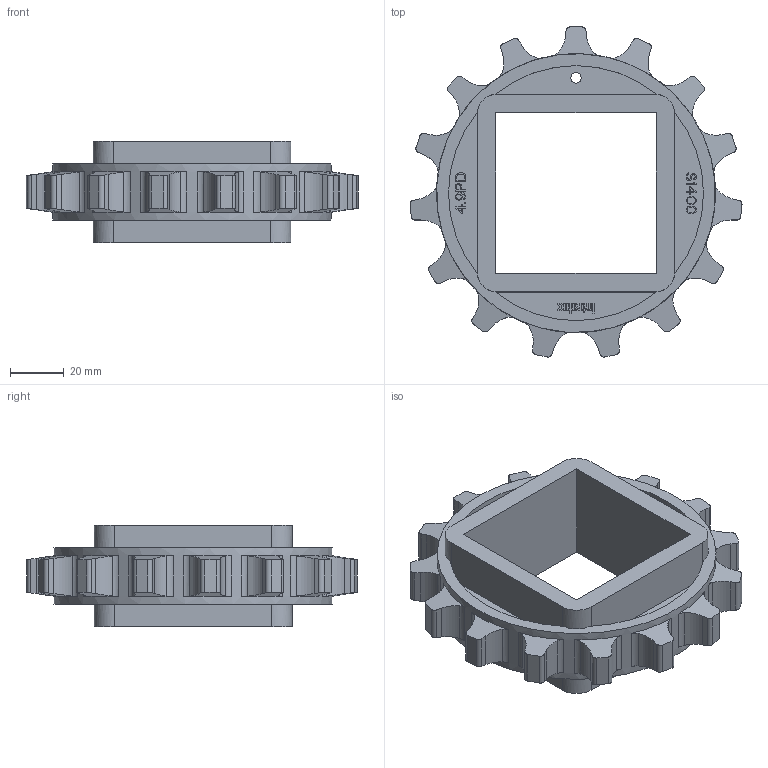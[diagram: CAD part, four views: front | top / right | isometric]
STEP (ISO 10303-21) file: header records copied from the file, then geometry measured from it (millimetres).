
FILE_DESCRIPTION((''),'2;1');
FILE_NAME('S1400_SPROCKET_49X25_60_SQ','2012-07-05T',('rklein'),('INTRALOX'),'PRO/ENGINEER BY PARAMETRIC TECHNOLOGY CORPORATION, 2009460','PRO/ENGINEER BY PARAMETRIC TECHNOLOGY CORPORATION, 2009460','');
FILE_SCHEMA(('CONFIG_CONTROL_DESIGN'));
Length unit declared in the file: inch
Products named in the file (1): S1400_SPROCKET_49X25_60_SQ
Bounding box: 124.04 x 123.38 x 38.1 mm (x, y, z)
Volume: 125955.5 mm3; surface area: 44100.8 mm2
Topology: 1 solids, 1 shells, 644 faces, 1791 edges, 1194 vertices
Faces by surface type: plane 492, cylinder 152
Entity records: 20873 total; most frequent: CARTESIAN_POINT 4559, ORIENTED_EDGE 3582, DIRECTION 3009, EDGE_CURVE 1791, VECTOR 1441, LINE 1441, VERTEX_POINT 1194, AXIS2_PLACEMENT_3D 784
